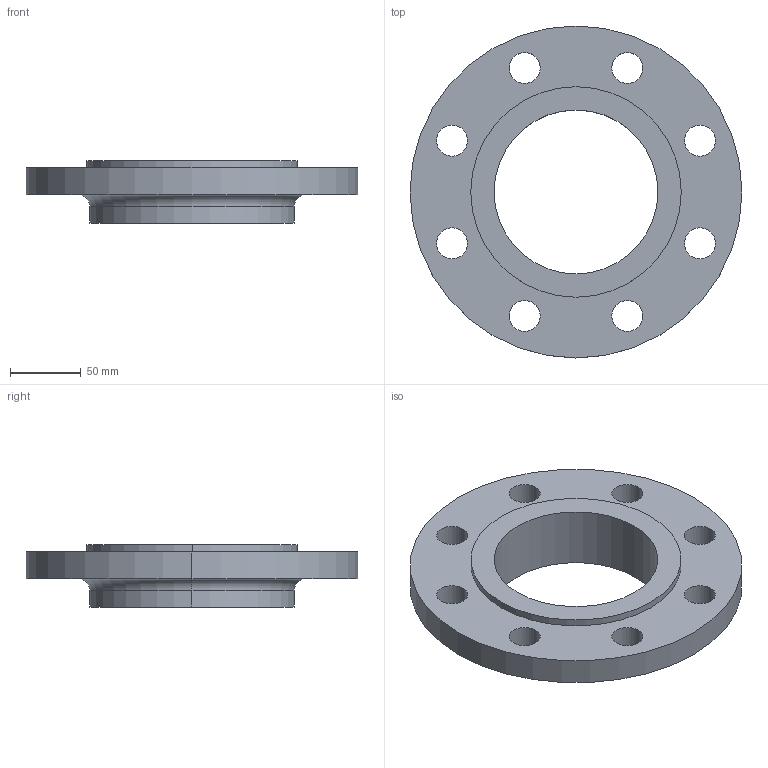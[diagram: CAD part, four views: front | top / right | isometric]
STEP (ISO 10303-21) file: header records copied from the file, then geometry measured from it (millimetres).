
FILE_DESCRIPTION (( 'STEP AP214' ), '1' );
FILE_NAME ('PN40 DN100 Type 12 - Type E Face.STEP', '2019-01-02T00:20:57', ( '' ), ( '' ), 'SwSTEP 2.0', 'SolidWorks 2019', '' );
FILE_SCHEMA (( 'AUTOMOTIVE_DESIGN' ));
Length unit declared in the file: millimetre
Products named in the file (1): PN40 DN100 Type 12 - Type E Face
Bounding box: 235 x 235 x 44 mm (x, y, z)
Volume: 725166.3 mm3; surface area: 110011.3 mm2
Topology: 1 solids, 1 shells, 30 faces, 76 edges, 50 vertices
Faces by surface type: cylinder 24, plane 4, torus 2
Entity records: 1006 total; most frequent: DIRECTION 190, CARTESIAN_POINT 157, ORIENTED_EDGE 152, AXIS2_PLACEMENT_3D 83, EDGE_CURVE 76, CIRCLE 52, EDGE_LOOP 50, VERTEX_POINT 50
